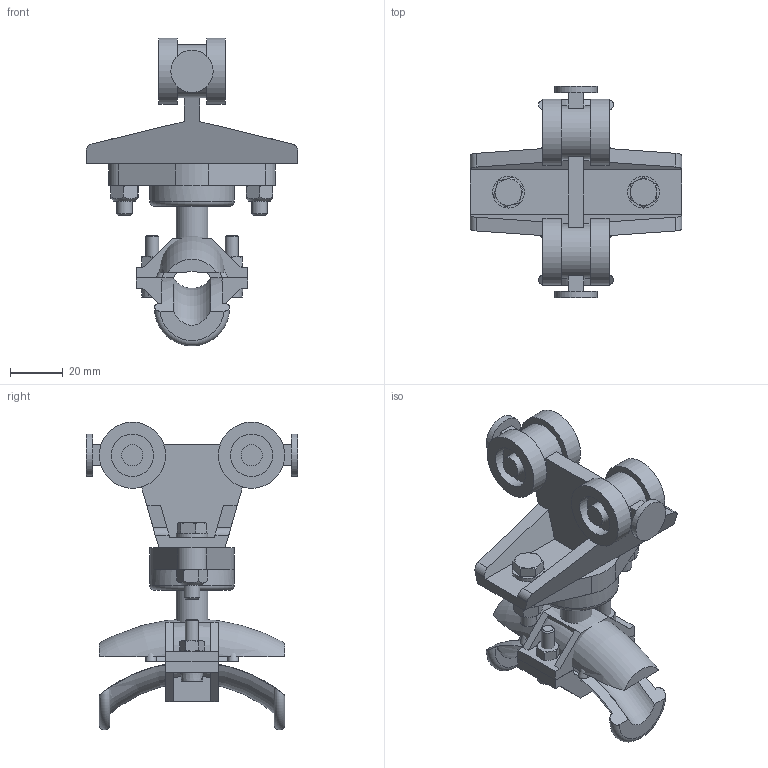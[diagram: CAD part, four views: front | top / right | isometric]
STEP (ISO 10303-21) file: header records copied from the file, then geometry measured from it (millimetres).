
FILE_DESCRIPTION((''),'2;1');
FILE_NAME('C:\Documents and Settings\Administrator\My Documents\Andys Backup Data\WEBSITE\DREAMWEAVER\MiniTec\Products\Modular_Workstations\CAD\Step\32.0225 CABLE TROLLEY CIRCULAR LINES.stp','2012-10-29T10:57:38',('Administrator'),(''),'Autodesk Inventor 2009','Autodesk Inventor 2009','');
FILE_SCHEMA(('AUTOMOTIVE_DESIGN { 1 0 10303 214 1 1 1 1 }'));
Length unit declared in the file: millimetre
Products named in the file (12): 32.0225 CABLE TROLLEY CIRCULAR LINES; 32.0225 UPPER CARRAIGE; 21.1126 M6 ROUND WASHER; 32.0225 M6 HEX BOLT; 32.0225 ROTATING PLATFORM; 32.0225 CABLE GUIDE 1; 32.0225 CABLE GUIDE 2; 32.0225 M6 HEX NUT; 32.0225 CABLE GUIDE 3; 32.0225 LOWER YOKE; 32.0225 M5 CHEESE HEAD; 32.0225 M5 HEX NUT
Assembly tree (16 placements, depth 2):
  32.0225 CABLE TROLLEY CIRCULAR LINES
    32.0225 UPPER CARRAIGE
    21.1126 M6 ROUND WASHER  x2
    32.0225 M6 HEX BOLT  x2
    32.0225 ROTATING PLATFORM
    32.0225 CABLE GUIDE 1
    32.0225 CABLE GUIDE 2
    32.0225 M6 HEX NUT  x2
    32.0225 CABLE GUIDE 3
    32.0225 LOWER YOKE
    32.0225 M5 CHEESE HEAD  x2
    32.0225 M5 HEX NUT  x2
Bounding box: 80 x 80 x 116.18 mm (x, y, z)
Volume: 91067.6 mm3; surface area: 46499.3 mm2
Topology: 16 solids, 16 shells, 297 faces, 691 edges, 445 vertices
Faces by surface type: plane 173, cone 56, cylinder 50, torus 12, bspline 4, sphere 2
Full cylindrical faces by diameter (mm): 4.019 x2, 5 x2, 5.4 x4, 6 x2, 6.4 x6, 8 x4, 12 x3, 16 x6, 19 x1, 20 x2, 25 x4, 32 x1
Entity records: 7822 total; most frequent: CARTESIAN_POINT 2471, DIRECTION 1046, ORIENTED_EDGE 978, EDGE_CURVE 489, AXIS2_PLACEMENT_3D 407, VERTEX_POINT 345, EDGE_LOOP 316, VECTOR 232
